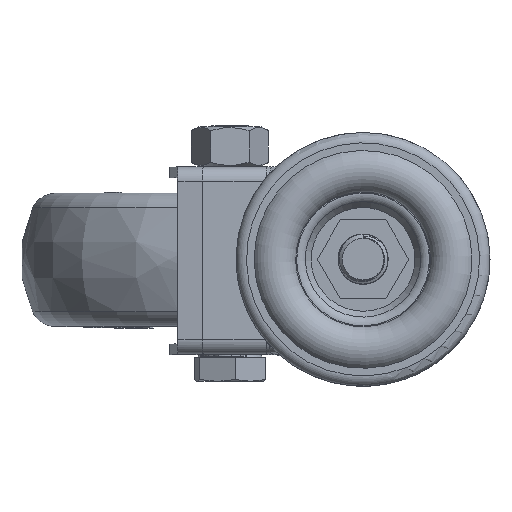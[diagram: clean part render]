
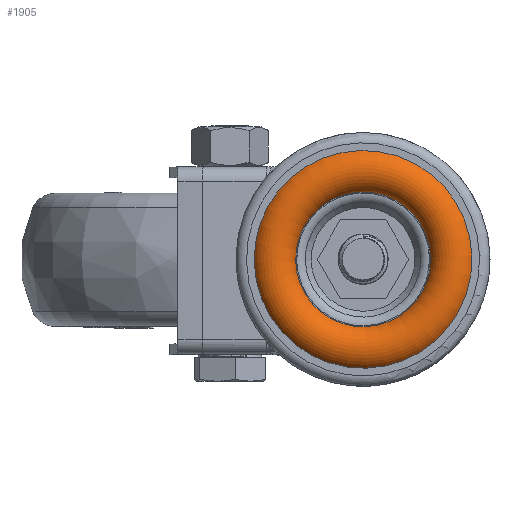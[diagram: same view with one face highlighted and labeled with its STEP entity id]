
A CAD part, top view. The second image highlights one B-rep face of the part: STEP entity #1905.
In plain terms, the highlighted toroidal (fillet/blend) face has major radius 21.5 mm and minor radius 5.6 mm.
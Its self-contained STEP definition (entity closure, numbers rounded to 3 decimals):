
#381=TOROIDAL_SURFACE('',#15491,21.5,5.6);
#1905=ADVANCED_FACE('',(#5355,#5356),#381,.T.);
#5355=FACE_BOUND('',#6333,.T.);
#5356=FACE_BOUND('',#6334,.T.);
#6333=EDGE_LOOP('',(#10441));
#6334=EDGE_LOOP('',(#10442));
#10441=ORIENTED_EDGE('',*,*,#13898,.T.);
#10442=ORIENTED_EDGE('',*,*,#13899,.F.);
#11844=VERTEX_POINT('',#33526);
#11845=VERTEX_POINT('',#33529);
#13898=EDGE_CURVE('',#11844,#11844,#14305,.T.);
#13899=EDGE_CURVE('',#11845,#11845,#14306,.T.);
#14305=CIRCLE('',#15488,16.19);
#14306=CIRCLE('',#15490,26.164);
#15488=AXIS2_PLACEMENT_3D('',#33525,#18905,#18906);
#15490=AXIS2_PLACEMENT_3D('',#33528,#18909,#18910);
#15491=AXIS2_PLACEMENT_3D('',#33530,#18911,#18912);
#18905=DIRECTION('',(0.,0.,-1.));
#18906=DIRECTION('',(0.929,0.37,0.));
#18909=DIRECTION('',(0.,0.,-1.));
#18910=DIRECTION('',(0.929,0.37,0.));
#18911=DIRECTION('',(0.,0.,-1.));
#18912=DIRECTION('',(-0.929,-0.37,0.));
#33525=CARTESIAN_POINT('',(0.,0.,-34.822));
#33526=CARTESIAN_POINT('',(15.039,5.997,-34.822));
#33528=CARTESIAN_POINT('',(0.,0.,-33.502));
#33529=CARTESIAN_POINT('',(24.303,9.692,-33.502));
#33530=CARTESIAN_POINT('',(0.,0.,-36.602));
